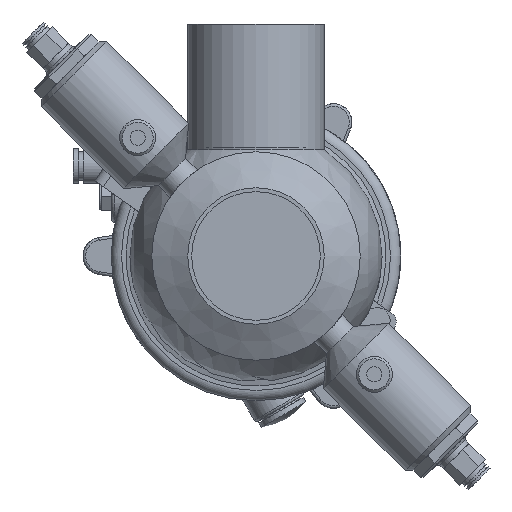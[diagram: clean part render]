
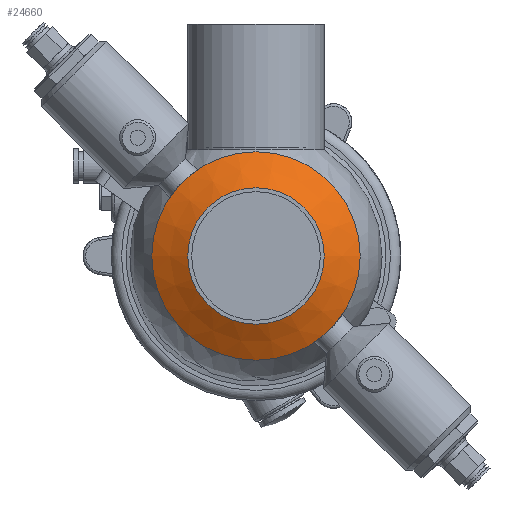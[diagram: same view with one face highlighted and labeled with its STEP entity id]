
A CAD part, front view. The second image highlights one B-rep face of the part: STEP entity #24660.
In plain terms, the highlighted conical face has half-angle 60 degrees and reference radius 40.5 mm.
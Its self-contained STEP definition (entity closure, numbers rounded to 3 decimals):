
#759 = VERTEX_POINT ( 'NONE', #47421 ) ;
#2507 = CONICAL_SURFACE ( 'NONE', #38316, 40.5, 1.047 ) ;
#2813 = CARTESIAN_POINT ( 'NONE',  ( 0., -58.083, 0. ) ) ;
#6940 = DIRECTION ( 'NONE',  ( 0., 1., 0. ) ) ;
#7937 = DIRECTION ( 'NONE',  ( 0., 1., 0. ) ) ;
#12009 = VERTEX_POINT ( 'NONE', #41475 ) ;
#14932 = EDGE_CURVE ( 'NONE', #759, #759, #46391, .T. ) ;
#16300 = DIRECTION ( 'NONE',  ( 0., 0., 1. ) ) ;
#16636 = AXIS2_PLACEMENT_3D ( 'NONE', #2813, #7937, #16300 ) ;
#16641 = DIRECTION ( 'NONE',  ( 0., 0., 1. ) ) ;
#20114 = DIRECTION ( 'NONE',  ( 0., 0., 1. ) ) ;
#24660 = ADVANCED_FACE ( 'NONE', ( #50671, #35872 ), #2507, .T. ) ;
#26143 = ORIENTED_EDGE ( 'NONE', *, *, #14932, .T. ) ;
#31316 = CARTESIAN_POINT ( 'NONE',  ( 0., -50., 0. ) ) ;
#35872 = FACE_OUTER_BOUND ( 'NONE', #41340, .T. ) ;
#36809 = CIRCLE ( 'NONE', #57354, 40.5 ) ;
#38316 = AXIS2_PLACEMENT_3D ( 'NONE', #45867, #41333, #16641 ) ;
#41333 = DIRECTION ( 'NONE',  ( 0., 1., 0. ) ) ;
#41340 = EDGE_LOOP ( 'NONE', ( #57930 ) ) ;
#41475 = CARTESIAN_POINT ( 'NONE',  ( 0., -50., 40.5 ) ) ;
#45867 = CARTESIAN_POINT ( 'NONE',  ( 0., -50., 0. ) ) ;
#46391 = CIRCLE ( 'NONE', #16636, 26.5 ) ;
#47421 = CARTESIAN_POINT ( 'NONE',  ( 0., -58.083, 26.5 ) ) ;
#50671 = FACE_BOUND ( 'NONE', #56918, .T. ) ;
#56918 = EDGE_LOOP ( 'NONE', ( #26143 ) ) ;
#57354 = AXIS2_PLACEMENT_3D ( 'NONE', #31316, #6940, #20114 ) ;
#57878 = EDGE_CURVE ( 'NONE', #12009, #12009, #36809, .T. ) ;
#57930 = ORIENTED_EDGE ( 'NONE', *, *, #57878, .F. ) ;
